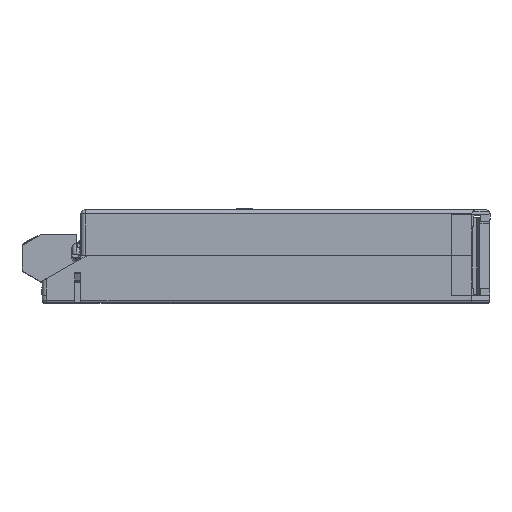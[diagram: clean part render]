
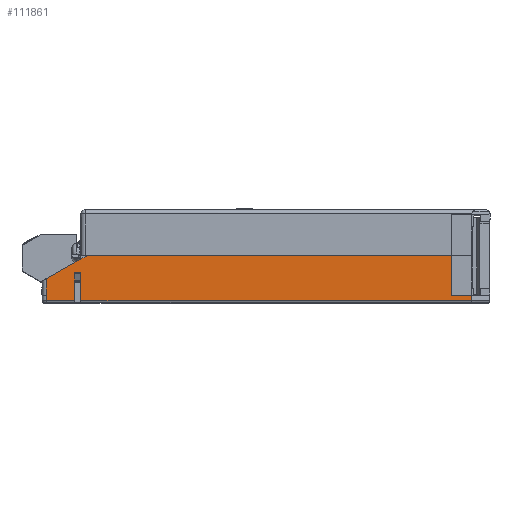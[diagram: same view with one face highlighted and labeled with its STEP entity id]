
A CAD part, top view. The second image highlights one B-rep face of the part: STEP entity #111861.
In plain terms, the highlighted planar face has unit normal (0, 0, 1).
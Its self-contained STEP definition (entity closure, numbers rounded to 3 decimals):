
#1242 = VECTOR ( 'NONE', #34414, 1000. ) ;
#1347 = CARTESIAN_POINT ( 'NONE',  ( -29.999, 0.5, 37.495 ) ) ;
#1761 = VERTEX_POINT ( 'NONE', #45308 ) ;
#2035 = CARTESIAN_POINT ( 'NONE',  ( -29.999, 1.8, 37.495 ) ) ;
#3536 = EDGE_CURVE ( 'NONE', #104079, #27108, #11516, .T. ) ;
#5374 = CARTESIAN_POINT ( 'NONE',  ( 61.001, 11.55, 37.495 ) ) ;
#5635 = VECTOR ( 'NONE', #16869, 1000. ) ;
#6958 = ORIENTED_EDGE ( 'NONE', *, *, #70763, .T. ) ;
#7406 = CARTESIAN_POINT ( 'NONE',  ( 65.998, 1.8, 37.495 ) ) ;
#7961 = VERTEX_POINT ( 'NONE', #121743 ) ;
#9281 = VECTOR ( 'NONE', #119860, 1000. ) ;
#11516 = LINE ( 'NONE', #23697, #62658 ) ;
#11876 = CARTESIAN_POINT ( 'NONE',  ( -28.499, 11.55, 37.495 ) ) ;
#14437 = VERTEX_POINT ( 'NONE', #101364 ) ;
#16869 = DIRECTION ( 'NONE',  ( 0., -1., 0. ) ) ;
#17111 = CARTESIAN_POINT ( 'NONE',  ( -38.499, 1.8, 37.495 ) ) ;
#17524 = CARTESIAN_POINT ( 'NONE',  ( -28.499, 11.55, 37.495 ) ) ;
#19792 = VECTOR ( 'NONE', #117240, 1000. ) ;
#19898 = EDGE_CURVE ( 'NONE', #39342, #20187, #36423, .T. ) ;
#20187 = VERTEX_POINT ( 'NONE', #5374 ) ;
#20807 = EDGE_CURVE ( 'NONE', #77391, #72415, #63265, .T. ) ;
#23697 = CARTESIAN_POINT ( 'NONE',  ( 65.998, 0.5, 37.495 ) ) ;
#24037 = ORIENTED_EDGE ( 'NONE', *, *, #19898, .F. ) ;
#24073 = VERTEX_POINT ( 'NONE', #7406 ) ;
#24870 = CARTESIAN_POINT ( 'NONE',  ( -31.499, 7.3, 37.495 ) ) ;
#25309 = DIRECTION ( 'NONE',  ( -1., 0., 0. ) ) ;
#27108 = VERTEX_POINT ( 'NONE', #42081 ) ;
#34414 = DIRECTION ( 'NONE',  ( 0., -1., 0. ) ) ;
#36423 = LINE ( 'NONE', #17524, #9281 ) ;
#37582 = ORIENTED_EDGE ( 'NONE', *, *, #95861, .F. ) ;
#37816 = FACE_OUTER_BOUND ( 'NONE', #120877, .T. ) ;
#38605 = AXIS2_PLACEMENT_3D ( 'NONE', #111418, #50147, #121709 ) ;
#39025 = EDGE_CURVE ( 'NONE', #61830, #68913, #68954, .T. ) ;
#39342 = VERTEX_POINT ( 'NONE', #11876 ) ;
#41797 = VECTOR ( 'NONE', #25309, 1000. ) ;
#42081 = CARTESIAN_POINT ( 'NONE',  ( 65.998, 0.5, 37.495 ) ) ;
#44361 = ORIENTED_EDGE ( 'NONE', *, *, #67193, .F. ) ;
#45308 = CARTESIAN_POINT ( 'NONE',  ( 61.001, 1.8, 37.495 ) ) ;
#45737 = CARTESIAN_POINT ( 'NONE',  ( 65.998, 1.8, 37.495 ) ) ;
#48710 = ORIENTED_EDGE ( 'NONE', *, *, #106128, .T. ) ;
#49049 = VECTOR ( 'NONE', #85516, 1000. ) ;
#49161 = LINE ( 'NONE', #105930, #1242 ) ;
#50147 = DIRECTION ( 'NONE',  ( 0., 0., -1. ) ) ;
#50286 = CARTESIAN_POINT ( 'NONE',  ( -29.999, 7.3, 37.495 ) ) ;
#50576 = LINE ( 'NONE', #128732, #105011 ) ;
#52281 = ORIENTED_EDGE ( 'NONE', *, *, #90485, .T. ) ;
#56877 = LINE ( 'NONE', #64279, #104878 ) ;
#60421 = CARTESIAN_POINT ( 'NONE',  ( -31.499, 0.5, 37.495 ) ) ;
#61830 = VERTEX_POINT ( 'NONE', #50286 ) ;
#62658 = VECTOR ( 'NONE', #126497, 1000. ) ;
#63070 = CARTESIAN_POINT ( 'NONE',  ( -38.499, 1.8, 37.495 ) ) ;
#63264 = DIRECTION ( 'NONE',  ( 0., -1., 0. ) ) ;
#63265 = LINE ( 'NONE', #129036, #5635 ) ;
#64279 = CARTESIAN_POINT ( 'NONE',  ( -28.499, 11.55, 37.495 ) ) ;
#67193 = EDGE_CURVE ( 'NONE', #20187, #1761, #49161, .T. ) ;
#67501 = DIRECTION ( 'NONE',  ( 0., -1., 0. ) ) ;
#68913 = VERTEX_POINT ( 'NONE', #87122 ) ;
#68954 = LINE ( 'NONE', #24870, #41797 ) ;
#70763 = EDGE_CURVE ( 'NONE', #14437, #7961, #81474, .T. ) ;
#70775 = DIRECTION ( 'NONE',  ( 1., 0., 0. ) ) ;
#72415 = VERTEX_POINT ( 'NONE', #17111 ) ;
#73387 = DIRECTION ( 'NONE',  ( 0., -1., 0. ) ) ;
#74596 = DIRECTION ( 'NONE',  ( -0.869, -0.494, 0. ) ) ;
#75207 = EDGE_CURVE ( 'NONE', #1761, #24073, #98145, .T. ) ;
#76266 = LINE ( 'NONE', #84650, #49049 ) ;
#77391 = VERTEX_POINT ( 'NONE', #105553 ) ;
#81474 = LINE ( 'NONE', #60421, #132644 ) ;
#84522 = ORIENTED_EDGE ( 'NONE', *, *, #3536, .T. ) ;
#84650 = CARTESIAN_POINT ( 'NONE',  ( 65.998, 1.8, 37.495 ) ) ;
#85516 = DIRECTION ( 'NONE',  ( 0., -1., 0. ) ) ;
#87122 = CARTESIAN_POINT ( 'NONE',  ( -31.499, 7.3, 37.495 ) ) ;
#90485 = EDGE_CURVE ( 'NONE', #61830, #104079, #98871, .T. ) ;
#95861 = EDGE_CURVE ( 'NONE', #24073, #27108, #76266, .T. ) ;
#96043 = EDGE_CURVE ( 'NONE', #68913, #7961, #50576, .T. ) ;
#97582 = ORIENTED_EDGE ( 'NONE', *, *, #39025, .F. ) ;
#98145 = LINE ( 'NONE', #45737, #19792 ) ;
#98871 = LINE ( 'NONE', #2035, #126014 ) ;
#98980 = ORIENTED_EDGE ( 'NONE', *, *, #75207, .F. ) ;
#101364 = CARTESIAN_POINT ( 'NONE',  ( -38.499, 0.5, 37.495 ) ) ;
#103235 = ORIENTED_EDGE ( 'NONE', *, *, #111055, .T. ) ;
#104079 = VERTEX_POINT ( 'NONE', #1347 ) ;
#104878 = VECTOR ( 'NONE', #74596, 1000. ) ;
#105011 = VECTOR ( 'NONE', #67501, 1000. ) ;
#105553 = CARTESIAN_POINT ( 'NONE',  ( -38.499, 5.868, 37.495 ) ) ;
#105930 = CARTESIAN_POINT ( 'NONE',  ( 61.001, 11.55, 37.495 ) ) ;
#106128 = EDGE_CURVE ( 'NONE', #72415, #14437, #130758, .T. ) ;
#111055 = EDGE_CURVE ( 'NONE', #39342, #77391, #56877, .T. ) ;
#111278 = ORIENTED_EDGE ( 'NONE', *, *, #96043, .F. ) ;
#111418 = CARTESIAN_POINT ( 'NONE',  ( 65.998, 1.8, 37.495 ) ) ;
#111861 = ADVANCED_FACE ( 'NONE', ( #37816 ), #120823, .F. ) ;
#117240 = DIRECTION ( 'NONE',  ( 1., 0., 0. ) ) ;
#118070 = ORIENTED_EDGE ( 'NONE', *, *, #20807, .T. ) ;
#119860 = DIRECTION ( 'NONE',  ( 1., 0., 0. ) ) ;
#120823 = PLANE ( 'NONE',  #38605 ) ;
#120877 = EDGE_LOOP ( 'NONE', ( #103235, #118070, #48710, #6958, #111278, #97582, #52281, #84522, #37582, #98980, #44361, #24037 ) ) ;
#121709 = DIRECTION ( 'NONE',  ( -1., 0., 0. ) ) ;
#121743 = CARTESIAN_POINT ( 'NONE',  ( -31.499, 0.5, 37.495 ) ) ;
#126014 = VECTOR ( 'NONE', #63264, 1000. ) ;
#126497 = DIRECTION ( 'NONE',  ( 1., 0., 0. ) ) ;
#127507 = VECTOR ( 'NONE', #73387, 1000. ) ;
#128732 = CARTESIAN_POINT ( 'NONE',  ( -31.499, 1.8, 37.495 ) ) ;
#129036 = CARTESIAN_POINT ( 'NONE',  ( -38.499, 1.8, 37.495 ) ) ;
#130758 = LINE ( 'NONE', #63070, #127507 ) ;
#132644 = VECTOR ( 'NONE', #70775, 1000. ) ;
